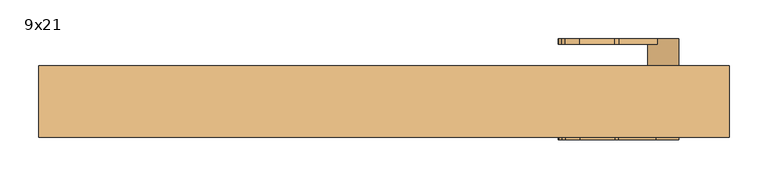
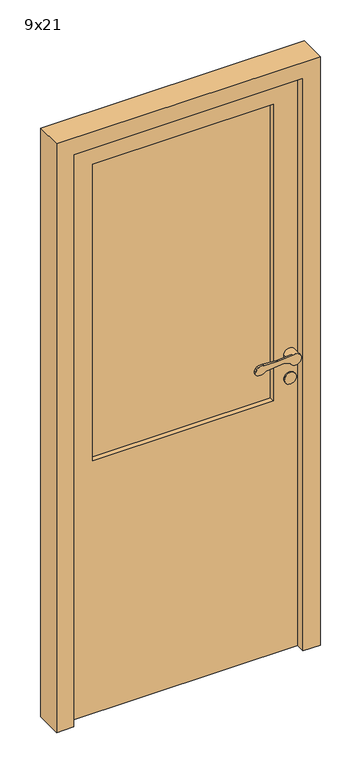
"""IFC4 building model written with IfcOpenShell, lengths in millimetres: door geometry, Ytterdør eigen 1 glatt med glas : 9x21."""

from ifc_helpers import new_model, si_unit, point, frame, frame_2d, origin, place, context, project, spatial, polyline, circle_curve, trimmed, segment, composite_curve, outline, extrude, faceted_brep, source, transform, mapped, element, save
from ifc_brep_helpers import plane_surface, cylinder_surface, revolved_surface, advanced_brep


def door_9x21_1bd15698(model_context):
    return source(origin(), model_context, "Body", "SolidModel", [
        extrude(outline(composite_curve([segment(trimmed(circle_curve(frame_2d((965.0, 360.0)), 20.0), [point((965.0, 380.0))], [point((965.0, 340.0))], False, "CARTESIAN"), True, "CONTINUOUS"), segment(trimmed(circle_curve(frame_2d((965.0, 360.0)), 20.0), [point((965.0, 340.0))], [point((965.0, 380.0))], False, "CARTESIAN"), True, "CONTINUOUS")], self_intersect=False)), frame((0.0, 95.0, 0.0), z_axis=(0.0, 1.0, 0.0), x_axis=(0.0, 0.0, 1.0)), (0.0, 0.0, 1.0), 5.0),
        extrude(outline(composite_curve([segment(trimmed(circle_curve(frame_2d((1092.7619371, 299.30403)), 30.0000001), [point((1062.9128632, 302.3094903))], [point((1062.8329847, 297.2405827))], True, "CARTESIAN"), True, "CONTINUOUS"), segment(polyline([(1062.8329847, 297.2405827), (1065.9164674, 252.5166845)]), True, "CONTINUOUS"), segment(trimmed(circle_curve(frame_2d((1036.4559309, 246.8530466)), 30.0000001), [point((1065.9164674, 252.5166845))], [point((1063.5335945, 233.9379339))], False, "CARTESIAN"), True, "CONTINUOUS"), segment(trimmed(circle_curve(frame_2d((1054.5077066, 238.2429714)), 10.0), [point((1063.5335945, 233.9379339))], [point((1058.6149506, 229.125376))], False, "CARTESIAN"), True, "CONTINUOUS"), segment(polyline([(1058.6149506, 229.125376), (1050.5438812, 225.4895652)]), True, "CONTINUOUS"), segment(trimmed(circle_curve(frame_2d((1046.4366372, 234.6071607)), 10.0), [point((1050.5438812, 225.4895652))], [point((1037.3918831, 230.341903))], False, "CARTESIAN"), True, "CONTINUOUS"), segment(trimmed(circle_curve(frame_2d((1061.0052772, 241.4773313)), 26.1072815), [point((1037.3918831, 230.341903))], [point((1042.2785443, 259.6679779))], False, "CARTESIAN"), True, "CONTINUOUS"), segment(polyline([(1042.2785443, 259.6679779), (1048.6022345, 322.4724333)]), True, "CONTINUOUS"), segment(trimmed(circle_curve(frame_2d((1038.6525432, 323.4742534)), 10.0), [point((1048.6022345, 322.4724333))], [point((1047.7701387, 327.5814974))], True, "CARTESIAN"), True, "CONTINUOUS"), segment(polyline([(1047.7701387, 327.5814974), (1032.9010548, 360.5891035), (1069.0317715, 363.0801305), (1062.9128632, 302.3094903)]), True, "CONTINUOUS")], self_intersect=False)), frame((0.0, 122.8915284, 0.0), z_axis=(0.0, 1.0, 0.0), x_axis=(0.0, 0.0, 1.0)), (0.0, 0.0, 1.0), 7.1084716),
        extrude(outline(composite_curve([segment(trimmed(circle_curve(frame_2d((1050.0, 360.0)), 20.0), [point((1050.0, 380.0))], [point((1050.0, 340.0))], False, "CARTESIAN"), True, "CONTINUOUS"), segment(trimmed(circle_curve(frame_2d((1050.0, 360.0)), 20.0), [point((1050.0, 340.0))], [point((1050.0, 380.0))], False, "CARTESIAN"), True, "CONTINUOUS")], self_intersect=False)), frame((0.0, 95.0, 0.0), z_axis=(0.0, 1.0, 0.0), x_axis=(0.0, 0.0, 1.0)), (0.0, 0.0, 1.0), 35.0),
        advanced_brep(
        [(380.0, 0.0, 1050.0), (350.8891463, 0.0, 1067.8042788), (302.3094903, 0.0, 1062.9128632), (297.2405827, 0.0, 1062.8329847), (252.5166845, 0.0, 1065.9164674), (233.9379339, 0.0, 1063.5335945), (229.125376, 0.0, 1058.6149506), (225.4895652, 0.0, 1050.5438812), (230.341903, 0.0, 1037.3918831), (259.6679779, 0.0, 1042.2785443), (322.4724333, 0.0, 1048.6022345), (327.5814974, 0.0, 1047.7701387), (342.004483, 0.0, 1041.2729519), (380.0, 35.0, 1050.0), (340.0, 35.0, 1050.0), (342.004483, 7.1084716, 1041.2729519), (340.0, 7.1084716, 1050.0), (350.8891463, 7.1084716, 1067.8042788), (302.3094903, 7.1084716, 1062.9128632), (327.5814974, 7.1084716, 1047.7701387), (322.4724333, 7.1084716, 1048.6022345), (259.6679779, 7.1084716, 1042.2785443), (230.341903, 7.1084716, 1037.3918831), (225.4895652, 7.1084716, 1050.5438812), (229.125376, 7.1084716, 1058.6149506), (233.9379339, 7.1084716, 1063.5335945), (252.5166845, 7.1084716, 1065.9164674), (297.2405827, 7.1084716, 1062.8329847)],
        [
            (0, 1, circle_curve(frame((360.0, 0.0, 1050.0), z_axis=(0.0, -1.0, 0.0), x_axis=(-1.0, 0.0, 0.0)), 20.0)),
            (1, 2),
            (2, 3, circle_curve(frame((299.30403, 0.0, 1092.7619371), z_axis=(0.0, 1.0, 0.0), x_axis=(-1.0, 0.0, 0.0)), 30.0000001)),
            (3, 4),
            (4, 5, circle_curve(frame((246.8530466, 0.0, 1036.4559309), z_axis=(0.0, -1.0, 0.0), x_axis=(-1.0, 0.0, 0.0)), 30.0000001)),
            (5, 6, circle_curve(frame((238.2429714, 0.0, 1054.5077066), z_axis=(0.0, -1.0, 0.0), x_axis=(-1.0, 0.0, 0.0)), 10.0)),
            (6, 7),
            (7, 8, circle_curve(frame((234.6071607, 0.0, 1046.4366372), z_axis=(0.0, -1.0, 0.0), x_axis=(-1.0, 0.0, 0.0)), 10.0)),
            (8, 9, circle_curve(frame((241.4773313, 0.0, 1061.0052772), z_axis=(0.0, -1.0, 0.0), x_axis=(-1.0, 0.0, 0.0)), 26.1072815)),
            (9, 10),
            (10, 11, circle_curve(frame((323.4742534, 0.0, 1038.6525432), z_axis=(0.0, 1.0, 0.0), x_axis=(-1.0, 0.0, 0.0)), 10.0)),
            (11, 12),
            (12, 0, circle_curve(frame((360.0, 0.0, 1050.0), z_axis=(0.0, -1.0, 0.0), x_axis=(-1.0, 0.0, 0.0)), 20.0)),
            (13, 14, circle_curve(frame((360.0, 35.0, 1050.0), z_axis=(0.0, 1.0, 0.0), x_axis=(-1.0, 0.0, 0.0)), 20.0)),
            (14, 13, circle_curve(frame((360.0, 35.0, 1050.0), z_axis=(0.0, 1.0, 0.0), x_axis=(-1.0, 0.0, 0.0)), 20.0)),
            (13, 0),
            (12, 15),
            (15, 16, circle_curve(frame((360.0, 7.1084716, 1050.0), z_axis=(0.0, 1.0, 0.0), x_axis=(-1.0, 0.0, 0.0)), 20.0)),
            (16, 14),
            (16, 17, circle_curve(frame((360.0, 7.1084716, 1050.0), z_axis=(0.0, 1.0, 0.0), x_axis=(-1.0, 0.0, 0.0)), 20.0)),
            (17, 1),
            (18, 17),
            (15, 19),
            (19, 20, circle_curve(frame((323.4742534, 7.1084716, 1038.6525432), z_axis=(0.0, -1.0, 0.0), x_axis=(-1.0, 0.0, 0.0)), 10.0)),
            (20, 21),
            (21, 22, circle_curve(frame((241.4773313, 7.1084716, 1061.0052772), z_axis=(0.0, 1.0, 0.0), x_axis=(-1.0, 0.0, 0.0)), 26.1072815)),
            (22, 23, circle_curve(frame((234.6071607, 7.1084716, 1046.4366372), z_axis=(0.0, 1.0, 0.0), x_axis=(-1.0, 0.0, 0.0)), 10.0)),
            (23, 24),
            (24, 25, circle_curve(frame((238.2429714, 7.1084716, 1054.5077066), z_axis=(0.0, 1.0, 0.0), x_axis=(-1.0, 0.0, 0.0)), 10.0)),
            (25, 26, circle_curve(frame((246.8530466, 7.1084716, 1036.4559309), z_axis=(0.0, 1.0, 0.0), x_axis=(-1.0, 0.0, 0.0)), 30.0000001)),
            (26, 27),
            (27, 18, circle_curve(frame((299.30403, 7.1084716, 1092.7619371), z_axis=(0.0, -1.0, 0.0), x_axis=(-1.0, 0.0, 0.0)), 30.0000001)),
            (18, 2),
            (11, 19),
            (10, 20),
            (9, 21),
            (8, 22),
            (7, 23),
            (6, 24),
            (5, 25),
            (4, 26),
            (3, 27),
        ],
        [
            plane_surface(frame((340.0, 0.0, 1050.0), z_axis=(0.0, -1.0, 0.0), x_axis=(0.0, 0.0, 1.0))),
            plane_surface(frame((340.0, 35.0, 1050.0), z_axis=(0.0, 1.0, 0.0), x_axis=(0.0, 0.0, -1.0))),
            cylinder_surface(frame((360.0, 35.0, 1050.0), z_axis=(0.0, -1.0, 0.0), x_axis=(-1.0, 0.0, 0.0)), 20.0),
            plane_surface(frame((363.0801305, 7.1084716, 1069.0317715), z_axis=(0.0, 1.0, 0.0), x_axis=(-0.9949691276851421, 0.0, -0.10018200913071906))),
            plane_surface(frame((302.3094903, 0.0, 1062.9128632), z_axis=(-0.10018200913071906, 0.0, 0.9949691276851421), x_axis=(0.0, 1.0, 0.0))),
            plane_surface(frame((360.5891035, 0.0, 1032.9010548), z_axis=(-0.4107243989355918, 0.0, -0.9117595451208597), x_axis=(0.0, 1.0, 0.0))),
            revolved_surface(polyline([(313.4742534, 7.1084716, 1038.6525432), (313.4742534, 0.0, 1038.6525432)]), (323.4742534, 7.1084716, 1038.6525432), (0.0, 1.0, 0.0)),
            plane_surface(frame((322.4724333, 0.0, 1048.6022345), z_axis=(0.10018200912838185, 0.0, -0.9949691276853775), x_axis=(0.0, 1.0, 0.0))),
            cylinder_surface(frame((241.4773313, 7.1084716, 1061.0052772), z_axis=(0.0, -1.0, 0.0), x_axis=(-1.0, 0.0, 0.0)), 26.1072815),
            cylinder_surface(frame((234.6071607, 7.1084716, 1046.4366372), z_axis=(0.0, -1.0, 0.0), x_axis=(-1.0, 0.0, 0.0)), 10.0),
            plane_surface(frame((225.4895652, 0.0, 1050.5438812), z_axis=(-0.9117595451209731, 0.0, 0.41072439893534), x_axis=(0.0, 1.0, 0.0))),
            cylinder_surface(frame((238.2429714, 7.1084716, 1054.5077066), z_axis=(0.0, -1.0, 0.0), x_axis=(-1.0, 0.0, 0.0)), 10.0),
            cylinder_surface(frame((246.8530466, 7.1084716, 1036.4559309), z_axis=(0.0, -1.0, 0.0), x_axis=(-1.0, 0.0, 0.0)), 30.0000001),
            plane_surface(frame((252.5166845, 0.0, 1065.9164674), z_axis=(0.06878157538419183, 0.0, 0.9976317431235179), x_axis=(0.0, 1.0, 0.0))),
            revolved_surface(polyline([(269.3040299, 7.1084716, 1092.7619371), (269.3040299, 0.0, 1092.7619371)]), (299.30403, 7.1084716, 1092.7619371), (0.0, 1.0, 0.0)),
        ],
        [
            (0, [[1, 2, 3, 4, 5, 6, 7, 8, 9, 10, 11, 12, 13]]),
            (1, [[14, 15]]),
            (2, [[16, -13, 17, 18, 19, -14]]),
            (2, [[-19, 20, 21, -1, -16, -15]]),
            (3, [[22, -20, -18, 23, 24, 25, 26, 27, 28, 29, 30, 31, 32]]),
            (4, [[-2, -21, -22, 33]]),
            (5, [[-23, -17, -12, 34]]),
            (6, [[35, -24, -34, -11]]),
            (7, [[36, -25, -35, -10]]),
            (8, [[37, -26, -36, -9]]),
            (9, [[38, -27, -37, -8]]),
            (10, [[39, -28, -38, -7]]),
            (11, [[40, -29, -39, -6]]),
            (12, [[41, -30, -40, -5]]),
            (13, [[42, -31, -41, -4]]),
            (14, [[-33, -32, -42, -3]]),
        ],
    ),
        extrude(outline(composite_curve([segment(trimmed(circle_curve(frame_2d((965.0, 360.0)), 20.0), [point((965.0, 380.0))], [point((965.0, 340.0))], False, "CARTESIAN"), True, "CONTINUOUS"), segment(trimmed(circle_curve(frame_2d((965.0, 360.0)), 20.0), [point((965.0, 340.0))], [point((965.0, 380.0))], False, "CARTESIAN"), True, "CONTINUOUS")], self_intersect=False)), frame((0.0, 30.0, 0.0), z_axis=(0.0, 1.0, 0.0), x_axis=(0.0, 0.0, 1.0)), (0.0, 0.0, 1.0), 5.0),
        faceted_brep([(445.0, 3.0, 0.0), (387.0, 3.0, 0.0), (387.0, 35.0, 0.0), (405.0, 35.0, 0.0), (405.0, 95.0, 0.0), (445.0, 95.0, 0.0), (445.0, 3.0, 2098.0), (-445.0, 3.0, 2098.0), (-445.0, 3.0, 0.0), (-387.0, 3.0, 0.0), (-387.0, 3.0, 2040.0), (387.0, 3.0, 2040.0), (387.0, 35.0, 2040.0), (-387.0, 35.0, 2040.0), (-387.0, 35.0, 0.0), (-405.0, 35.0, 0.0), (-405.0, 35.0, 2058.0), (405.0, 35.0, 2058.0), (405.0, 95.0, 2058.0), (-405.0, 95.0, 2058.0), (-405.0, 95.0, 0.0), (-445.0, 95.0, 0.0), (-445.0, 95.0, 2098.0), (445.0, 95.0, 2098.0)], [[[0, 1, 2, 3, 4, 5]], [[1, 0, 6, 7, 8, 9, 10, 11]], [[2, 1, 11, 12]], [[3, 2, 12, 13, 14, 15, 16, 17]], [[4, 3, 17, 18]], [[5, 4, 18, 19, 20, 21, 22, 23]], [[0, 5, 23, 6]], [[7, 22, 21, 8]], [[8, 21, 20, 15, 14, 9]], [[13, 10, 9, 14]], [[19, 16, 15, 20]], [[12, 11, 10, 13]], [[18, 17, 16, 19]], [[6, 23, 22, 7]]]),
        extrude(outline(polyline([(-305.0, 77.0), (305.0, 77.0), (305.0, 53.0), (-305.0, 53.0), (-305.0, 77.0)])), frame((0.0, 0.0, 900.0), z_axis=(0.0, 0.0, 1.0), x_axis=(1.0, 0.0, 0.0)), (0.0, 0.0, 1.0), 1058.0),
        extrude(outline(polyline([(0.0, -405.0), (0.0, 405.0), (2058.0, 405.0), (2058.0, -405.0), (0.0, -405.0)]), holes=[polyline([(1958.0, -305.0), (1958.0, 305.0), (900.0, 305.0), (900.0, -305.0), (1958.0, -305.0)])]), frame((0.0, 35.0, 0.0), z_axis=(0.0, 1.0, 0.0), x_axis=(0.0, 0.0, 1.0)), (0.0, 0.0, 1.0), 60.0),
    ])


if __name__ == "__main__":
    model = new_model("IFC4")
    model_context = context("Model", 3, world=origin())
    ifc_project = project(units=[si_unit("LENGTHUNIT", "METRE", prefix="MILLI")], contexts=[model_context])
    site = spatial("IfcSite", under=ifc_project)
    building = spatial("IfcBuilding", under=site)
    placement = place(None, origin())
    door_9x21_shape = door_9x21_1bd15698(model_context)
    element("IfcDoor", 1, ObjectType="Ytterdør eigen 1 glatt med glas : 9x21", at=placement, inside=building, context=model_context, shape_type="MappedRepresentation", body=[
        mapped(door_9x21_shape, transform((0.0, 0.0, 0.0), x_axis=(1.0, 0.0, 0.0), y_axis=(0.0, 1.0, 0.0), z_axis=(0.0, 0.0, 1.0))),
    ])
    save(model, "model.ifc")
